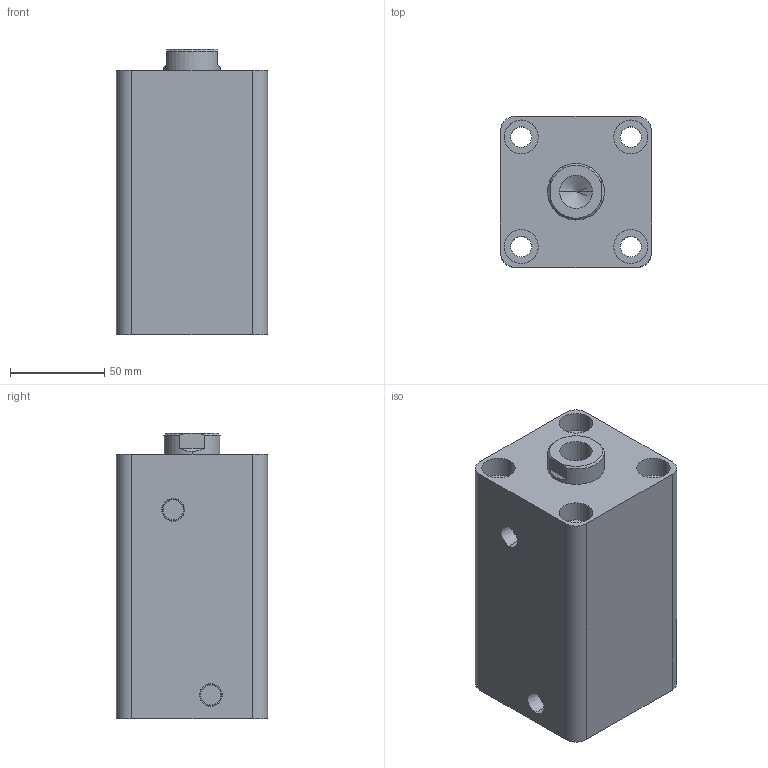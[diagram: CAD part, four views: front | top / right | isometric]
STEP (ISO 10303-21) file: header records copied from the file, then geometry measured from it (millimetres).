
FILE_DESCRIPTION (( 'STEP AP203' ), '1' );
FILE_NAME ('HTB-SD50-80N.STEP', '2019-10-07T07:14:02', ( '微软用户' ), ( '微软中国' ), 'SwSTEP 2.0', 'SolidWorks 2012', '' );
FILE_SCHEMA (( 'CONFIG_CONTROL_DESIGN' ));
Length unit declared in the file: millimetre
Products named in the file (3): HTB-SD50-80N; HTB-SD50-80N活塞杆; HTB-SD50-80掛极
Assembly tree (2 placements, depth 2):
  HTB-SD50-80N
    HTB-SD50-80掛极
    HTB-SD50-80N活塞杆
Bounding box: 80 x 80 x 151 mm (x, y, z)
Volume: 719208.1 mm3; surface area: 117642.8 mm2
Topology: 2 solids, 2 shells, 83 faces, 184 edges, 119 vertices
Faces by surface type: cylinder 42, plane 27, cone 8, torus 6
Entity records: 2655 total; most frequent: DIRECTION 456, CARTESIAN_POINT 417, ORIENTED_EDGE 364, AXIS2_PLACEMENT_3D 194, EDGE_CURVE 182, VERTEX_POINT 119, EDGE_LOOP 107, CIRCLE 106
